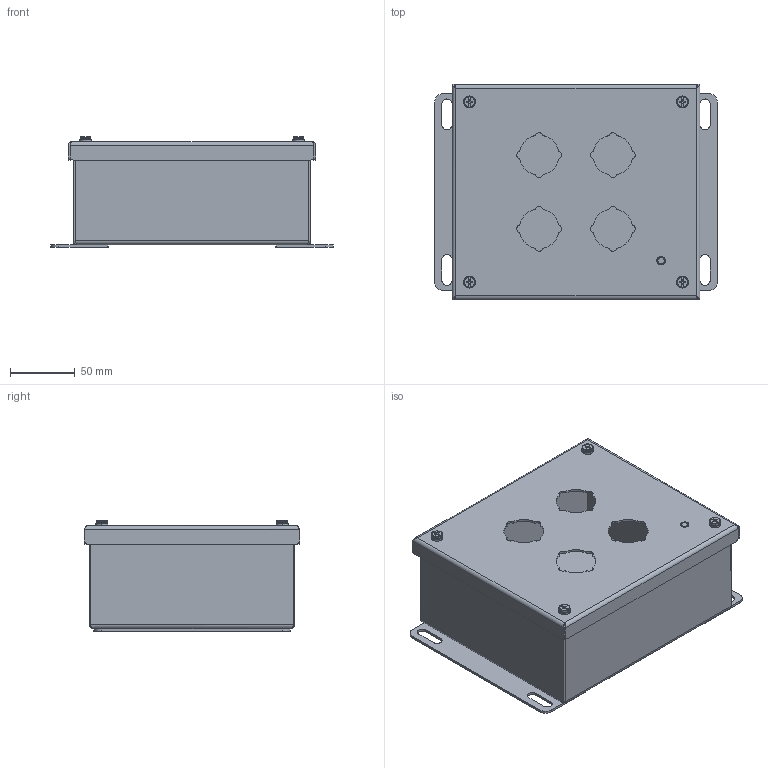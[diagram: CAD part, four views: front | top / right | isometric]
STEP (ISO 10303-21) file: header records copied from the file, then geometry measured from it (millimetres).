
FILE_DESCRIPTION((''),'2;1');
FILE_NAME('MODEL-394_ASM','2019-08-07T10:38:25',('zachary.titus'),('SAGINAW CONTROL & ENGINEERING'),'CREO PARAMETRIC BY PTC INC, 2017260','CREO PARAMETRIC BY PTC INC, 2017260','');
FILE_SCHEMA(('AUTOMOTIVE_DESIGN { 1 0 10303 214 1 1 1 1 }'));
Length unit declared in the file: inch
Products named in the file (10): MODEL-394-BDY; MODEL-394-DR; 100097; 102200; 101966; 100012; 100983; 102534; MODEL-394-GSKT; MODEL-394_ASM
Assembly tree (16 placements, depth 2):
  MODEL-394_ASM
    MODEL-394-BDY
    MODEL-394-DR
    100097
    102200  x2
    101966
    100012
    100983  x4
    102534  x4
    MODEL-394-GSKT
Bounding box: 219.07 x 166.69 x 85.69 mm (x, y, z)
Volume: 228015.8 mm3; surface area: 297694.6 mm2
Topology: 19 solids, 19 shells, 907 faces, 2254 edges, 1332 vertices
Faces by surface type: plane 387, cylinder 316, bspline 96, torus 80, cone 28
Entity records: 28650 total; most frequent: CARTESIAN_POINT 7017, DIRECTION 3086, ORIENTED_EDGE 2956, EDGE_CURVE 1478, PRESENTATION_STYLE_ASSIGNMENT 1390, STYLED_ITEM 1390, CURVE_STYLE 1314, AXIS2_PLACEMENT_3D 1092
